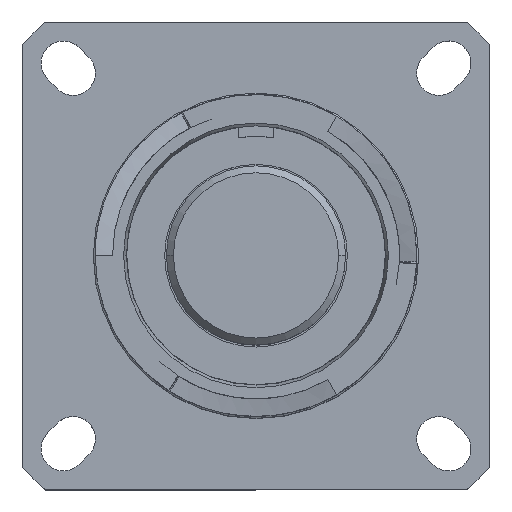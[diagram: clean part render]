
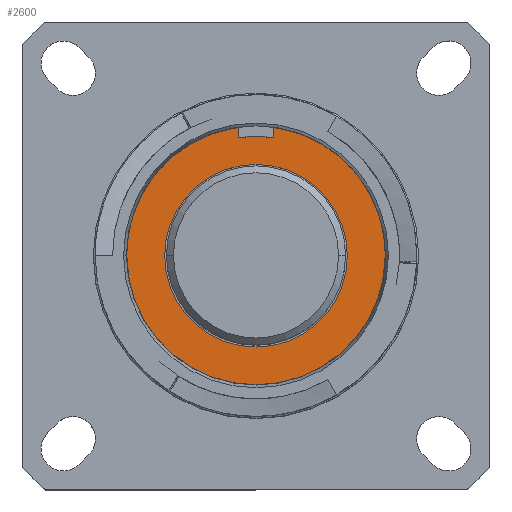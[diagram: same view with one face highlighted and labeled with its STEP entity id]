
A CAD part, top view. The second image highlights one B-rep face of the part: STEP entity #2600.
In plain terms, the highlighted planar face has unit normal (0, 0, 1).
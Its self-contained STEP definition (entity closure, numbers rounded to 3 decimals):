
#20 = AXIS2_PLACEMENT_3D ( 'NONE', #4049, #9217, #7063 ) ;
#220 = FACE_BOUND ( 'NONE', #2885, .T. ) ;
#893 = DIRECTION ( 'NONE',  ( 0., 0., 1. ) ) ;
#1000 = DIRECTION ( 'NONE',  ( 1., 0., 0. ) ) ;
#2040 = CIRCLE ( 'NONE', #20, 9.461 ) ;
#2147 = ORIENTED_EDGE ( 'NONE', *, *, #5594, .T. ) ;
#2280 = DIRECTION ( 'NONE',  ( 0., 0., 1. ) ) ;
#2344 = VERTEX_POINT ( 'NONE', #5857 ) ;
#2600 = ADVANCED_FACE ( 'NONE', ( #6936, #220 ), #3191, .F. ) ;
#2885 = EDGE_LOOP ( 'NONE', ( #7721, #7091 ) ) ;
#2983 = CIRCLE ( 'NONE', #8472, 6.667 ) ;
#3149 = AXIS2_PLACEMENT_3D ( 'NONE', #3178, #893, #6179 ) ;
#3178 = CARTESIAN_POINT ( 'NONE',  ( 0., 0., -13.335 ) ) ;
#3191 = PLANE ( 'NONE',  #5959 ) ;
#3551 = EDGE_CURVE ( 'NONE', #2344, #4015, #2983, .T. ) ;
#3919 = CIRCLE ( 'NONE', #5180, 6.667 ) ;
#4015 = VERTEX_POINT ( 'NONE', #8608 ) ;
#4049 = CARTESIAN_POINT ( 'NONE',  ( 0., 0., -13.335 ) ) ;
#4060 = ORIENTED_EDGE ( 'NONE', *, *, #6860, .T. ) ;
#4346 = CARTESIAN_POINT ( 'NONE',  ( 0., 0., -13.335 ) ) ;
#4709 = CIRCLE ( 'NONE', #3149, 9.461 ) ;
#4755 = CARTESIAN_POINT ( 'NONE',  ( 0., 0., -13.335 ) ) ;
#5180 = AXIS2_PLACEMENT_3D ( 'NONE', #4755, #5441, #1000 ) ;
#5441 = DIRECTION ( 'NONE',  ( 0., 0., 1. ) ) ;
#5594 = EDGE_CURVE ( 'NONE', #8315, #8942, #2040, .T. ) ;
#5857 = CARTESIAN_POINT ( 'NONE',  ( 6.667, 0., -13.335 ) ) ;
#5928 = CARTESIAN_POINT ( 'NONE',  ( -9.461, 0., -13.335 ) ) ;
#5959 = AXIS2_PLACEMENT_3D ( 'NONE', #6192, #9187, #8437 ) ;
#6179 = DIRECTION ( 'NONE',  ( 1., 0., 0. ) ) ;
#6192 = CARTESIAN_POINT ( 'NONE',  ( 0., 9.461, -13.335 ) ) ;
#6439 = EDGE_CURVE ( 'NONE', #4015, #2344, #3919, .T. ) ;
#6850 = DIRECTION ( 'NONE',  ( 1., 0., 0. ) ) ;
#6860 = EDGE_CURVE ( 'NONE', #8942, #8315, #4709, .T. ) ;
#6936 = FACE_OUTER_BOUND ( 'NONE', #9300, .T. ) ;
#7063 = DIRECTION ( 'NONE',  ( 1., 0., 0. ) ) ;
#7091 = ORIENTED_EDGE ( 'NONE', *, *, #6439, .F. ) ;
#7612 = CARTESIAN_POINT ( 'NONE',  ( 9.461, 0., -13.335 ) ) ;
#7721 = ORIENTED_EDGE ( 'NONE', *, *, #3551, .F. ) ;
#8315 = VERTEX_POINT ( 'NONE', #5928 ) ;
#8437 = DIRECTION ( 'NONE',  ( -1., 0., 0. ) ) ;
#8472 = AXIS2_PLACEMENT_3D ( 'NONE', #4346, #2280, #6850 ) ;
#8608 = CARTESIAN_POINT ( 'NONE',  ( -6.667, 0., -13.335 ) ) ;
#8942 = VERTEX_POINT ( 'NONE', #7612 ) ;
#9187 = DIRECTION ( 'NONE',  ( 0., 0., -1. ) ) ;
#9217 = DIRECTION ( 'NONE',  ( 0., 0., 1. ) ) ;
#9300 = EDGE_LOOP ( 'NONE', ( #4060, #2147 ) ) ;
